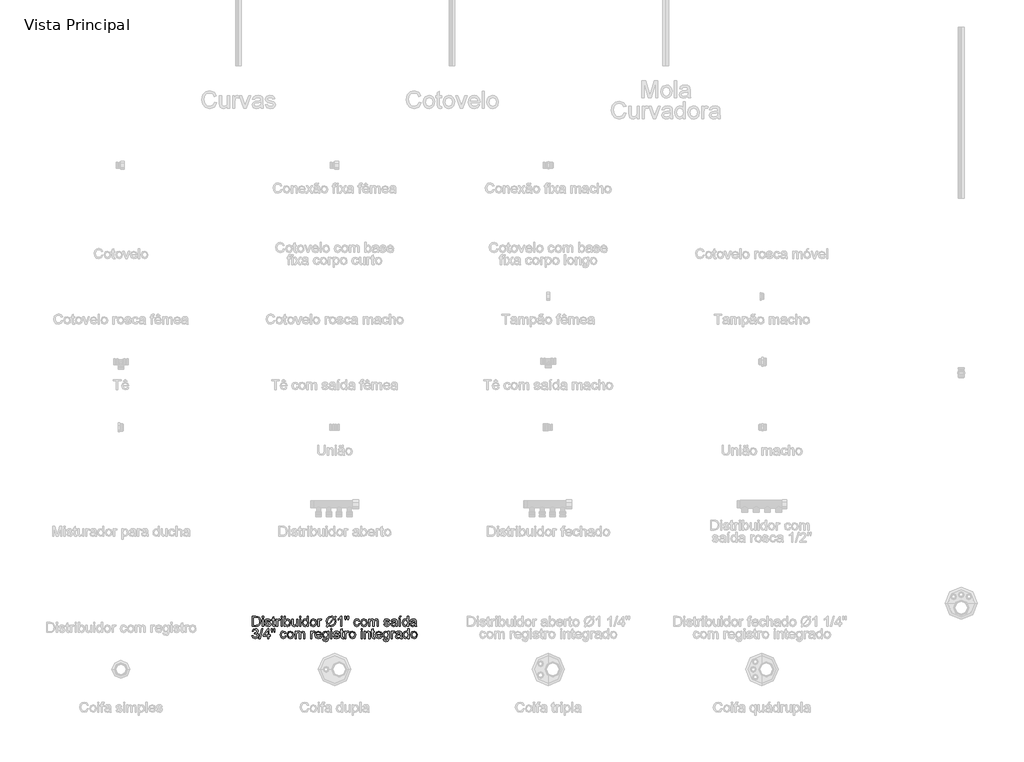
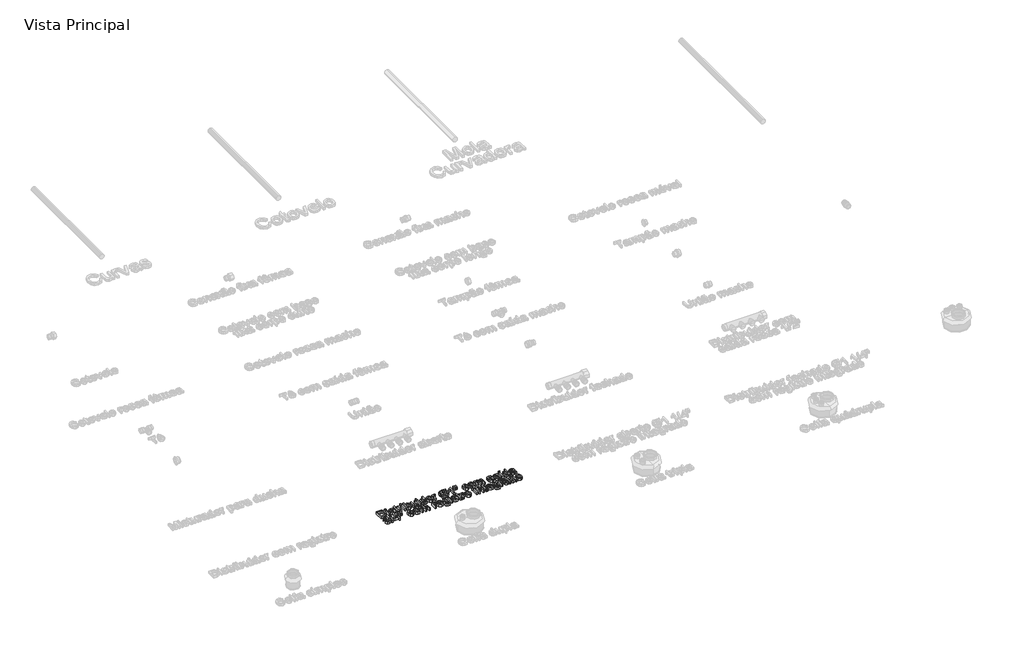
# One storey, part 3 of 12: 1 proxy.
"""IFC4 building model written with IfcOpenShell, lengths in millimetres."""

from ifc_helpers import new_model, si_unit, origin, origin_with_axes, place, context, project, spatial, polyline, outline, extrude, element, save

model = new_model("IFC4")

# Units and contexts
model_context = context("Model", 3, world=origin())
ifc_project = project(units=[si_unit("LENGTHUNIT", "METRE", prefix="MILLI")], contexts=[model_context])

# Site, building, storey
site = spatial("IfcSite", under=ifc_project)
building = spatial("IfcBuilding", under=site)
storey = spatial("IfcBuildingStorey", under=building, Name="Vista Principal", Elevation=0.0)

# Proxy
placement = place(None, origin())
element("IfcBuildingElementProxy", 1, Name="Legenda", ObjectType="Legenda", at=placement, inside=storey, context=model_context, shape_type="SweptSolid", body=[
    extrude(outline(polyline([(-619.2824012, -1548.3212496), (-619.2824012, -1513.161541), (-607.1533319, -1513.161541), (-600.8784913, -1513.6679919), (-595.7109755, -1516.1830785), (-591.5477776, -1522.1918177), (-590.1657676, -1530.5525492), (-591.1014141, -1537.6471535), (-593.5049098, -1542.7674577), (-596.7152934, -1545.9563815), (-600.9171189, -1547.7203756), (-606.5696258, -1548.3212496), (-619.2824012, -1548.3212496)]), holes=[polyline([(-614.8874377, -1543.926286), (-607.1104123, -1543.926286), (-601.4536135, -1543.2910764), (-598.1917265, -1541.4970385), (-595.5178375, -1537.1321187), (-594.5607312, -1530.4838779), (-596.4363162, -1522.1574821), (-600.9986661, -1518.2603855), (-607.2305871, -1517.5565046), (-614.8874377, -1517.5565046), (-614.8874377, -1543.926286)])]), origin_with_axes(), (0.0, 0.0, 1.0), 10.0),
    extrude(outline(polyline([(-584.6720631, -1548.3212496), (-584.6720631, -1522.5008386), (-580.2770996, -1522.5008386), (-580.2770996, -1548.3212496), (-584.6720631, -1548.3212496)])), origin_with_axes(), (0.0, 0.0, 1.0), 10.0),
    extrude(outline(polyline([(-584.6720631, -1517.5565046), (-584.6720631, -1513.161541), (-580.2770996, -1513.161541), (-580.2770996, -1517.5565046), (-584.6720631, -1517.5565046)])), origin_with_axes(), (0.0, 0.0, 1.0), 10.0),
    extrude(outline(polyline([(-575.3327655, -1540.6300633), (-570.937802, -1540.0806929), (-568.9034145, -1543.3425799), (-564.2423497, -1544.4756564), (-559.761547, -1543.4370029), (-558.3022817, -1540.9991716), (-559.7701309, -1539.0248715), (-564.2938531, -1537.7716202), (-570.9120502, -1535.6213499), (-573.800537, -1533.1105553), (-574.7833951, -1529.5653992), (-573.9936751, -1526.2906363), (-571.8391129, -1523.7884256), (-569.0450491, -1522.4879627), (-565.2638353, -1521.9514681), (-559.9160574, -1522.8141514), (-556.5168278, -1525.1489758), (-555.006059, -1529.0932839), (-559.4010226, -1529.6426544), (-561.0534259, -1527.2176989), (-564.9204788, -1526.3464317), (-569.1265963, -1527.1790713), (-570.3884315, -1529.1190357), (-568.2252854, -1531.3680209), (-564.4397797, -1532.3036675), (-557.9889689, -1534.3723906), (-554.9931832, -1536.7157989), (-553.9073181, -1540.5356403), (-555.1820293, -1544.7417577), (-558.8602361, -1547.7933389), (-564.3024371, -1548.87062), (-571.9678716, -1546.793313), (-575.3327655, -1540.6300633)])), origin_with_axes(), (0.0, 0.0, 1.0), 10.0),
    extrude(outline(polyline([(-539.6236865, -1544.6559186), (-539.0743161, -1548.4500083), (-542.3619549, -1548.87062), (-546.0444536, -1548.1409874), (-547.8814111, -1546.2267747), (-548.4136137, -1541.2395212), (-548.4136137, -1526.8958022), (-551.7098364, -1526.8958022), (-551.7098364, -1522.5008386), (-548.4136137, -1522.5008386), (-548.4136137, -1516.225998), (-544.0186501, -1513.6422401), (-544.0186501, -1522.5008386), (-539.6236865, -1522.5008386), (-539.6236865, -1526.8958022), (-544.0186501, -1526.8958022), (-544.0186501, -1541.1107625), (-543.7868845, -1543.3769155), (-539.6236865, -1544.6559186)])), origin_with_axes(), (0.0, 0.0, 1.0), 10.0),
    extrude(outline(polyline([(-535.228723, -1548.3212496), (-535.228723, -1522.5008386), (-531.3831299, -1522.5008386), (-531.3831299, -1526.32068), (-528.6534455, -1522.8012756), (-525.9065932, -1521.9514681), (-521.4944618, -1523.3077264), (-522.962311, -1527.2477426), (-526.0525197, -1526.3464317), (-528.5375626, -1527.2134069), (-530.1212946, -1529.6169027), (-530.8337594, -1534.7500828), (-530.8337594, -1548.3212496), (-535.228723, -1548.3212496)])), origin_with_axes(), (0.0, 0.0, 1.0), 10.0),
    extrude(outline(polyline([(-518.7476096, -1548.3212496), (-518.7476096, -1522.5008386), (-514.352646, -1522.5008386), (-514.352646, -1548.3212496), (-518.7476096, -1548.3212496)])), origin_with_axes(), (0.0, 0.0, 1.0), 10.0),
    extrude(outline(polyline([(-518.7476096, -1517.5565046), (-518.7476096, -1513.161541), (-514.352646, -1513.161541), (-514.352646, -1517.5565046), (-518.7476096, -1517.5565046)])), origin_with_axes(), (0.0, 0.0, 1.0), 10.0),
    extrude(outline(polyline([(-503.3652371, -1548.3212496), (-507.7602007, -1548.3212496), (-507.7602007, -1513.161541), (-503.3652371, -1513.161541), (-503.3652371, -1526.2005052), (-496.4637709, -1521.9514681), (-492.0602234, -1522.9085745), (-488.6438259, -1525.5996313), (-486.5450591, -1529.784289), (-485.7853828, -1535.024768), (-488.931387, -1545.2567925), (-496.4895226, -1548.87062), (-503.3652371, -1544.2095551), (-503.3652371, -1548.3212496)]), holes=[polyline([(-503.3652371, -1535.2307819), (-502.1634893, -1541.3768638), (-496.8672148, -1544.4756564), (-492.1632303, -1542.1923355), (-490.1803464, -1535.3852923), (-492.0816832, -1528.5524974), (-496.6783687, -1526.3464317), (-501.3823531, -1528.6297526), (-503.3652371, -1535.2307819)])]), origin_with_axes(), (0.0, 0.0, 1.0), 10.0),
    extrude(outline(polyline([(-464.3599354, -1548.3212496), (-464.3599354, -1543.8833664), (-472.2914712, -1548.87062), (-476.4246255, -1547.9950609), (-479.2744846, -1545.7975791), (-480.5835314, -1542.5614438), (-480.8410488, -1538.4755011), (-480.8410488, -1522.5008386), (-476.4460852, -1522.5008386), (-476.4460852, -1536.406778), (-476.1799839, -1540.8875807), (-474.4417415, -1543.5185501), (-471.1669786, -1544.4756564), (-467.4973557, -1543.4970903), (-465.0724002, -1540.8317853), (-464.3599354, -1535.9346628), (-464.3599354, -1522.5008386), (-459.9649719, -1522.5008386), (-459.9649719, -1548.3212496), (-464.3599354, -1548.3212496)])), origin_with_axes(), (0.0, 0.0, 1.0), 10.0),
    extrude(outline(polyline([(-453.921897, -1517.5565046), (-453.921897, -1513.161541), (-449.5269334, -1513.161541), (-449.5269334, -1517.5565046), (-453.921897, -1517.5565046)])), origin_with_axes(), (0.0, 0.0, 1.0), 10.0),
    extrude(outline(polyline([(-453.921897, -1548.3212496), (-453.921897, -1522.5008386), (-449.5269334, -1522.5008386), (-449.5269334, -1548.3212496), (-453.921897, -1548.3212496)])), origin_with_axes(), (0.0, 0.0, 1.0), 10.0),
    extrude(outline(polyline([(-427.0027451, -1548.3212496), (-427.0027451, -1544.1752195), (-433.9299631, -1548.87062), (-439.372164, -1547.1710052), (-443.2177572, -1542.4283931), (-444.5825994, -1535.4367958), (-443.3250561, -1528.4409065), (-439.5567182, -1523.6253312), (-433.9471309, -1521.9514681), (-429.8955238, -1523.148924), (-427.0027451, -1526.2605926), (-427.0027451, -1513.161541), (-422.6077815, -1513.161541), (-422.6077815, -1548.3212496), (-427.0027451, -1548.3212496)]), holes=[polyline([(-440.1876358, -1535.419628), (-438.2047518, -1542.2223792), (-433.5265191, -1544.4756564), (-428.9040819, -1542.3253862), (-427.0027451, -1535.7544006), (-428.9384175, -1528.6211687), (-433.7067813, -1526.3464317), (-438.3335105, -1528.5310376), (-440.1876358, -1535.419628)])]), origin_with_axes(), (0.0, 0.0, 1.0), 10.0),
    extrude(outline(polyline([(-417.1140771, -1535.4110441), (-413.3114035, -1524.8099112), (-405.5687138, -1521.9514681), (-397.2637777, -1525.432245), (-394.0405183, -1535.0505197), (-395.4654479, -1542.8704647), (-399.61577, -1547.2954719), (-405.5687138, -1548.87062), (-413.9251533, -1545.4027191), (-417.1140771, -1535.4110441)]), holes=[polyline([(-412.7191135, -1535.4024602), (-410.6847261, -1542.2137953), (-405.5687138, -1544.4756564), (-400.4698693, -1542.2009194), (-398.4354819, -1535.2651176), (-400.4827452, -1528.6082928), (-405.5687138, -1526.3464317), (-410.6847261, -1528.5997089), (-412.7191135, -1535.4024602)])]), origin_with_axes(), (0.0, 0.0, 1.0), 10.0),
    extrude(outline(polyline([(-389.0961843, -1548.3212496), (-389.0961843, -1522.5008386), (-385.2505912, -1522.5008386), (-385.2505912, -1526.32068), (-382.5209068, -1522.8012756), (-379.7740545, -1521.9514681), (-375.3619232, -1523.3077264), (-376.8297723, -1527.2477426), (-379.9199811, -1526.3464317), (-382.405024, -1527.2134069), (-383.9887559, -1529.6169027), (-384.7012207, -1534.7500828), (-384.7012207, -1548.3212496), (-389.0961843, -1548.3212496)])), origin_with_axes(), (0.0, 0.0, 1.0), 10.0),
    extrude(outline(polyline([(-332.4852766, -1516.3805085), (-328.6654352, -1512.8782719), (-325.4979713, -1514.8869076), (-329.4465713, -1519.393462), (-327.2319217, -1524.6210652), (-326.4679534, -1531.2049266), (-328.5624283, -1540.565684), (-334.4424088, -1546.7718532), (-342.4941194, -1548.87062), (-348.2453413, -1548.1667391), (-352.8720705, -1546.0808482), (-356.8120867, -1550.5788187), (-359.9795507, -1547.7203756), (-355.9193597, -1543.0936464), (-359.1640789, -1536.9819002), (-359.9795507, -1530.8873218), (-357.8378643, -1521.2218355), (-351.8291251, -1514.7967765), (-343.2237521, -1512.6121706), (-337.6399165, -1513.4533941), (-332.4852766, -1516.3805085)]), holes=[polyline([(-335.3608875, -1519.6509794), (-339.0390944, -1517.6337598), (-343.1207451, -1517.0071341), (-352.0565988, -1520.4535753), (-355.5845871, -1530.7413953), (-355.0438006, -1535.5226349), (-352.9579096, -1539.7287524), (-335.3608875, -1519.6509794)]), polyline([(-332.450941, -1522.8098595), (-349.9878757, -1542.8103773), (-347.7903939, -1543.7116882), (-343.2495038, -1544.4756564), (-334.3651536, -1540.9047485), (-330.862917, -1530.8787379), (-332.450941, -1522.8098595)])]), origin_with_axes(), (0.0, 0.0, 1.0), 10.0),
    extrude(outline(polyline([(-305.5918765, -1548.3212496), (-309.9868401, -1548.3212496), (-309.9868401, -1520.9213986), (-314.150038, -1523.8871406), (-318.7767672, -1526.1060821), (-318.7767672, -1521.9514681), (-312.3345403, -1517.8397737), (-308.4245679, -1513.161541), (-305.5918765, -1513.161541), (-305.5918765, -1548.3212496)])), origin_with_axes(), (0.0, 0.0, 1.0), 10.0),
    extrude(outline(polyline([(-294.0808489, -1525.7970613), (-295.153838, -1519.0071859), (-295.153838, -1513.161541), (-290.7588744, -1513.161541), (-290.7588744, -1519.0071859), (-291.7202727, -1525.7970613), (-294.0808489, -1525.7970613)])), origin_with_axes(), (0.0, 0.0, 1.0), 10.0),
    extrude(outline(polyline([(-285.3166735, -1525.7970613), (-286.3639109, -1519.0071859), (-286.3639109, -1513.161541), (-281.9689473, -1513.161541), (-281.9689473, -1519.0071859), (-282.9990169, -1525.7970613), (-285.3166735, -1525.7970613)])), origin_with_axes(), (0.0, 0.0, 1.0), 10.0),
    extrude(outline(polyline([(-246.2598683, -1538.981952), (-241.8649047, -1539.5313224), (-245.3928931, -1546.394161), (-252.3630306, -1548.87062), (-260.6937184, -1545.4155949), (-263.8397226, -1535.5054671), (-262.4963402, -1528.2048489), (-258.4018136, -1523.5137404), (-252.423118, -1521.9514681), (-245.7405416, -1524.0974464), (-242.4142752, -1530.1920248), (-246.8092388, -1530.7413953), (-248.8479181, -1527.4494646), (-252.3887824, -1526.3464317), (-257.4833348, -1528.5181618), (-259.444759, -1535.3852923), (-257.5262544, -1542.3168023), (-252.5089571, -1544.4756564), (-248.367219, -1543.1279821), (-246.2598683, -1538.981952)])), origin_with_axes(), (0.0, 0.0, 1.0), 10.0),
    extrude(outline(polyline([(-239.1180525, -1535.4110441), (-235.315379, -1524.8099112), (-227.5726892, -1521.9514681), (-219.2677532, -1525.432245), (-216.0444938, -1535.0505197), (-217.4694234, -1542.8704647), (-221.6197454, -1547.2954719), (-227.5726892, -1548.87062), (-235.9291288, -1545.4027191), (-239.1180525, -1535.4110441)]), holes=[polyline([(-234.7230889, -1535.4024602), (-232.6887015, -1542.2137953), (-227.5726892, -1544.4756564), (-222.4738448, -1542.2009194), (-220.4394573, -1535.2651176), (-222.4867206, -1528.6082928), (-227.5726892, -1526.3464317), (-232.6887015, -1528.5997089), (-234.7230889, -1535.4024602)])]), origin_with_axes(), (0.0, 0.0, 1.0), 10.0),
    extrude(outline(polyline([(-211.1001598, -1548.3212496), (-211.1001598, -1522.5008386), (-206.7051962, -1522.5008386), (-206.7051962, -1526.7498756), (-203.6836587, -1523.2690988), (-199.3831182, -1521.9514681), (-194.9795707, -1523.2948506), (-192.5589072, -1527.0588965), (-184.7990497, -1521.9514681), (-179.0521198, -1524.0759867), (-177.0391921, -1530.6212205), (-177.0391921, -1548.3212496), (-181.4341557, -1548.3212496), (-181.4341557, -1532.5096814), (-181.8418915, -1528.8400585), (-183.3183246, -1527.0331448), (-185.8291192, -1526.3464317), (-190.1511195, -1528.1061339), (-191.8721941, -1533.7457649), (-191.8721941, -1548.3212496), (-196.2671577, -1548.3212496), (-196.2671577, -1532.0203984), (-197.2843514, -1527.7627774), (-200.6192017, -1526.3464317), (-203.8725048, -1527.2906622), (-206.035651, -1530.0546822), (-206.7051962, -1535.2994532), (-206.7051962, -1548.3212496), (-211.1001598, -1548.3212496)])), origin_with_axes(), (0.0, 0.0, 1.0), 10.0),
    extrude(outline(polyline([(-158.3605969, -1540.6300633), (-153.9656334, -1540.0806929), (-151.9312459, -1543.3425799), (-147.2701811, -1544.4756564), (-142.7893783, -1543.4370029), (-141.3301131, -1540.9991716), (-142.7979623, -1539.0248715), (-147.3216845, -1537.7716202), (-153.9398816, -1535.6213499), (-156.8283684, -1533.1105553), (-157.8112265, -1529.5653992), (-157.0215065, -1526.2906363), (-154.8669443, -1523.7884256), (-152.0728805, -1522.4879627), (-148.2916667, -1521.9514681), (-142.9438888, -1522.8141514), (-139.5446592, -1525.1489758), (-138.0338904, -1529.0932839), (-142.428854, -1529.6426544), (-144.0812573, -1527.2176989), (-147.9483102, -1526.3464317), (-152.1544277, -1527.1790713), (-153.4162629, -1529.1190357), (-151.2531168, -1531.3680209), (-147.4676111, -1532.3036675), (-141.0168003, -1534.3723906), (-138.0210146, -1536.7157989), (-136.9351495, -1540.5356403), (-138.2098606, -1544.7417577), (-141.8880675, -1547.7933389), (-147.3302684, -1548.87062), (-154.9957029, -1546.793313), (-158.3605969, -1540.6300633)])), origin_with_axes(), (0.0, 0.0, 1.0), 10.0),
    extrude(outline(polyline([(-115.5097021, -1545.0250269), (-119.771615, -1548.0036448), (-124.4798914, -1548.87062), (-130.8620309, -1546.7847291), (-133.0895564, -1541.454119), (-132.2483329, -1537.9776341), (-130.0379753, -1535.4539636), (-126.9606424, -1534.0118662), (-123.1579688, -1533.3509049), (-115.5354539, -1531.8401362), (-116.7200339, -1527.6168509), (-121.5785288, -1526.3464317), (-126.0249958, -1527.1919472), (-128.1452224, -1530.1920248), (-132.540186, -1529.6426544), (-130.6388492, -1525.3506978), (-126.8104239, -1522.8356112), (-121.0119905, -1521.9514681), (-115.6856724, -1522.7326042), (-112.6770108, -1524.6940284), (-111.3293364, -1527.6769383), (-111.1147386, -1531.5225314), (-111.1147386, -1536.9904841), (-110.8915568, -1544.6258749), (-110.0159977, -1548.3212496), (-114.4109612, -1548.3212496), (-115.5097021, -1545.0250269)]), holes=[polyline([(-115.522578, -1536.8574335), (-122.6000145, -1537.5827741), (-126.3812282, -1538.2952389), (-128.0937189, -1539.4540672), (-128.6945928, -1541.1450981), (-127.3855461, -1543.5228421), (-123.5442449, -1544.4756564), (-119.0977779, -1543.4241271), (-116.2307508, -1540.8789968), (-115.522578, -1536.8574335)])]), origin_with_axes(), (0.0, 0.0, 1.0), 10.0),
    extrude(outline(polyline([(-105.0716637, -1519.7539864), (-101.775441, -1513.161541), (-96.2817365, -1513.161541), (-101.775441, -1519.7539864), (-105.0716637, -1519.7539864)])), origin_with_axes(), (0.0, 0.0, 1.0), 10.0),
    extrude(outline(polyline([(-103.9729228, -1548.3212496), (-103.9729228, -1522.5008386), (-99.5779592, -1522.5008386), (-99.5779592, -1548.3212496), (-103.9729228, -1548.3212496)])), origin_with_axes(), (0.0, 0.0, 1.0), 10.0),
    extrude(outline(polyline([(-75.4056596, -1548.3212496), (-75.4056596, -1544.1752195), (-82.3328775, -1548.87062), (-87.7750785, -1547.1710052), (-91.6206716, -1542.4283931), (-92.9855138, -1535.4367958), (-91.7279706, -1528.4409065), (-87.9596327, -1523.6253312), (-82.3500454, -1521.9514681), (-78.2984383, -1523.148924), (-75.4056596, -1526.2605926), (-75.4056596, -1513.161541), (-71.010696, -1513.161541), (-71.010696, -1548.3212496), (-75.4056596, -1548.3212496)]), holes=[polyline([(-88.5905503, -1535.419628), (-86.6076663, -1542.2223792), (-81.9294336, -1544.4756564), (-77.3069963, -1542.3253862), (-75.4056596, -1535.7544006), (-77.341332, -1528.6211687), (-82.1096958, -1526.3464317), (-86.736425, -1528.5310376), (-88.5905503, -1535.419628)])]), origin_with_axes(), (0.0, 0.0, 1.0), 10.0),
    extrude(outline(polyline([(-47.9371373, -1545.0250269), (-52.1990502, -1548.0036448), (-56.9073266, -1548.87062), (-63.2894661, -1546.7847291), (-65.5169915, -1541.454119), (-64.675768, -1537.9776341), (-62.4654104, -1535.4539636), (-59.3880775, -1534.0118662), (-55.5854039, -1533.3509049), (-47.962889, -1531.8401362), (-49.147469, -1527.6168509), (-54.0059639, -1526.3464317), (-58.452431, -1527.1919472), (-60.5726575, -1530.1920248), (-64.9676211, -1529.6426544), (-63.0662843, -1525.3506978), (-59.237859, -1522.8356112), (-53.4394256, -1521.9514681), (-48.1131075, -1522.7326042), (-45.1044459, -1524.6940284), (-43.7567715, -1527.6769383), (-43.5421737, -1531.5225314), (-43.5421737, -1536.9904841), (-43.3189919, -1544.6258749), (-42.4434328, -1548.3212496), (-46.8383964, -1548.3212496), (-47.9371373, -1545.0250269)]), holes=[polyline([(-47.9500131, -1536.8574335), (-55.0274496, -1537.5827741), (-58.8086634, -1538.2952389), (-60.521154, -1539.4540672), (-61.122028, -1541.1450981), (-59.8129812, -1543.5228421), (-55.97168, -1544.4756564), (-51.525213, -1543.4241271), (-48.658186, -1540.8789968), (-47.9500131, -1536.8574335)])]), origin_with_axes(), (0.0, 0.0, 1.0), 10.0),
    extrude(outline(polyline([(-620.9305126, -1581.6731382), (-616.535549, -1581.1237678), (-614.1105935, -1585.750497), (-609.5739954, -1587.1668427), (-604.2348014, -1585.2182944), (-602.2519174, -1580.3941352), (-604.2176335, -1575.8489531), (-609.213471, -1574.0506233), (-612.2950959, -1574.5313224), (-611.8058128, -1570.1363589), (-606.1146784, -1568.9260271), (-603.9000287, -1565.0460983), (-605.5052205, -1561.6082411), (-609.6426667, -1560.2476908), (-613.8316163, -1561.6211169), (-615.9861786, -1565.7413953), (-620.3811421, -1565.1920248), (-616.7844825, -1558.2991425), (-609.7971771, -1555.8527273), (-604.4966107, -1557.0587671), (-600.7883602, -1560.3549897), (-599.5050652, -1564.7885809), (-600.7239809, -1568.840188), (-604.3292244, -1571.7501345), (-599.5394008, -1574.7545042), (-597.8569538, -1580.4713904), (-601.2218478, -1588.3342549), (-609.7285058, -1591.5618063), (-617.4368599, -1588.8063701), (-620.9305126, -1581.6731382)])), origin_with_axes(), (0.0, 0.0, 1.0), 10.0),
    extrude(outline(polyline([(-596.2088425, -1591.0124358), (-586.3201745, -1555.8527273), (-582.3544066, -1555.8527273), (-592.2430746, -1591.0124358), (-596.2088425, -1591.0124358)])), origin_with_axes(), (0.0, 0.0, 1.0), 10.0),
    extrude(outline(polyline([(-565.993468, -1591.0124358), (-565.993468, -1582.7718791), (-581.9252109, -1582.7718791), (-581.9252109, -1578.3769155), (-564.8947271, -1556.4020977), (-561.5985044, -1556.4020977), (-561.5985044, -1578.3769155), (-557.2035408, -1578.3769155), (-557.2035408, -1582.7718791), (-561.5985044, -1582.7718791), (-561.5985044, -1591.0124358), (-565.993468, -1591.0124358)]), holes=[polyline([(-565.993468, -1578.3769155), (-565.993468, -1564.7971648), (-576.5173456, -1578.3769155), (-565.993468, -1578.3769155)])]), origin_with_axes(), (0.0, 0.0, 1.0), 10.0),
    extrude(outline(polyline([(-552.2849585, -1568.4882475), (-553.3579477, -1561.6983722), (-553.3579477, -1555.8527273), (-548.9629841, -1555.8527273), (-548.9629841, -1561.6983722), (-549.9243824, -1568.4882475), (-552.2849585, -1568.4882475)])), origin_with_axes(), (0.0, 0.0, 1.0), 10.0),
    extrude(outline(polyline([(-543.5207831, -1568.4882475), (-544.5680206, -1561.6983722), (-544.5680206, -1555.8527273), (-540.173057, -1555.8527273), (-540.173057, -1561.6983722), (-541.2031266, -1568.4882475), (-543.5207831, -1568.4882475)])), origin_with_axes(), (0.0, 0.0, 1.0), 10.0),
    extrude(outline(polyline([(-504.463978, -1581.6731382), (-500.0690144, -1582.2225087), (-503.5970028, -1589.0853473), (-510.5671403, -1591.5618063), (-518.8978281, -1588.1067812), (-522.0438323, -1578.1966534), (-520.7004499, -1570.8960352), (-516.6059232, -1566.2049266), (-510.6272277, -1564.6426544), (-503.9446512, -1566.7886327), (-500.6183849, -1572.8832111), (-505.0133484, -1573.4325815), (-507.0520278, -1570.1406508), (-510.592892, -1569.037618), (-515.6874445, -1571.209348), (-517.6488687, -1578.0764786), (-515.7303641, -1585.0079885), (-510.7130668, -1587.1668427), (-506.5713287, -1585.8191683), (-504.463978, -1581.6731382)])), origin_with_axes(), (0.0, 0.0, 1.0), 10.0),
    extrude(outline(polyline([(-497.3221622, -1578.1022303), (-493.5194886, -1567.5010975), (-485.7767989, -1564.6426544), (-477.4718629, -1568.1234312), (-474.2486035, -1577.741706), (-475.6735331, -1585.5616509), (-479.8238551, -1589.9866582), (-485.7767989, -1591.5618063), (-494.1332384, -1588.0939053), (-497.3221622, -1578.1022303)]), holes=[polyline([(-492.9271986, -1578.0936464), (-490.8928112, -1584.9049815), (-485.7767989, -1587.1668427), (-480.6779545, -1584.8921057), (-478.643567, -1577.9563038), (-480.6908303, -1571.2994791), (-485.7767989, -1569.037618), (-490.8928112, -1571.2908952), (-492.9271986, -1578.0936464)])]), origin_with_axes(), (0.0, 0.0, 1.0), 10.0),
    extrude(outline(polyline([(-469.3042694, -1591.0124358), (-469.3042694, -1565.1920248), (-464.9093059, -1565.1920248), (-464.9093059, -1569.4410619), (-461.8877684, -1565.9602851), (-457.5872279, -1564.6426544), (-453.1836804, -1565.9860368), (-450.7630169, -1569.7500828), (-443.0031593, -1564.6426544), (-437.2562294, -1566.7671729), (-435.2433018, -1573.3124067), (-435.2433018, -1591.0124358), (-439.6382654, -1591.0124358), (-439.6382654, -1575.2008677), (-440.0460012, -1571.5312448), (-441.5224343, -1569.724331), (-444.0332289, -1569.037618), (-448.3552292, -1570.7973202), (-450.0763038, -1576.4369512), (-450.0763038, -1591.0124358), (-454.4712674, -1591.0124358), (-454.4712674, -1574.7115846), (-455.4884611, -1570.4539636), (-458.8233114, -1569.037618), (-462.0766145, -1569.9818484), (-464.2397606, -1572.7458685), (-464.9093059, -1577.9906394), (-464.9093059, -1591.0124358), (-469.3042694, -1591.0124358)])), origin_with_axes(), (0.0, 0.0, 1.0), 10.0),
    extrude(outline(polyline([(-414.9165953, -1591.0124358), (-414.9165953, -1565.1920248), (-411.0710022, -1565.1920248), (-411.0710022, -1569.0118662), (-408.3413177, -1565.4924618), (-405.5944655, -1564.6426544), (-401.1823341, -1565.9989127), (-402.6501833, -1569.9389288), (-405.740392, -1569.037618), (-408.2254349, -1569.9045932), (-409.8091669, -1572.3080889), (-410.5216317, -1577.441269), (-410.5216317, -1591.0124358), (-414.9165953, -1591.0124358)])), origin_with_axes(), (0.0, 0.0, 1.0), 10.0),
    extrude(outline(polyline([(-380.3577606, -1583.3212496), (-376.0486362, -1583.87062), (-380.0787835, -1589.5445866), (-387.5854156, -1591.5618063), (-396.7101153, -1588.0810294), (-400.0835932, -1578.3168282), (-396.6757797, -1568.2307301), (-387.8343491, -1564.6426544), (-379.2461439, -1568.2221462), (-375.9112936, -1578.2910764), (-395.6886297, -1579.4756564), (-393.1606672, -1585.1839587), (-387.4995764, -1587.1668427), (-383.190452, -1586.248364), (-380.3577606, -1583.3212496)]), holes=[polyline([(-395.6886297, -1575.0806929), (-380.3062572, -1575.0806929), (-382.0659594, -1571.0977571), (-387.8515169, -1569.037618), (-393.2636742, -1570.6814373), (-395.6886297, -1575.0806929)])]), origin_with_axes(), (0.0, 0.0, 1.0), 10.0),
    extrude(outline(polyline([(-372.6150709, -1593.2099176), (-368.2201074, -1593.759288), (-366.7951778, -1596.0769446), (-362.5289729, -1597.0555107), (-358.0310024, -1595.9481859), (-355.8850241, -1592.8408093), (-355.5845871, -1587.7162131), (-362.4517177, -1591.0124358), (-370.3617937, -1587.1754266), (-373.1644414, -1577.9734716), (-371.9068981, -1571.1621365), (-368.2673189, -1566.3422692), (-362.6663155, -1564.6426544), (-355.5845871, -1568.4882475), (-355.5845871, -1565.1920248), (-351.1896235, -1565.1920248), (-351.1896235, -1587.4844475), (-352.3913714, -1596.0211492), (-356.1983369, -1599.991209), (-362.614812, -1601.4504743), (-369.9240141, -1599.3946271), (-372.6150709, -1593.2099176)]), holes=[polyline([(-368.7694778, -1577.6730347), (-366.8938928, -1584.4757859), (-362.1856164, -1586.6174722), (-357.4859239, -1584.4886618), (-355.5845871, -1577.8017934), (-357.5417193, -1571.2479756), (-362.2542877, -1569.037618), (-366.868141, -1571.21364), (-368.7694778, -1577.6730347)])]), origin_with_axes(), (0.0, 0.0, 1.0), 10.0),
    extrude(outline(polyline([(-344.5971782, -1591.0124358), (-344.5971782, -1565.1920248), (-340.2022146, -1565.1920248), (-340.2022146, -1591.0124358), (-344.5971782, -1591.0124358)])), origin_with_axes(), (0.0, 0.0, 1.0), 10.0),
    extrude(outline(polyline([(-344.5971782, -1560.2476908), (-344.5971782, -1555.8527273), (-340.2022146, -1555.8527273), (-340.2022146, -1560.2476908), (-344.5971782, -1560.2476908)])), origin_with_axes(), (0.0, 0.0, 1.0), 10.0),
    extrude(outline(polyline([(-335.2578806, -1583.3212496), (-330.862917, -1582.7718791), (-328.8285296, -1586.0337661), (-324.1674647, -1587.1668427), (-319.686662, -1586.1281892), (-318.2273968, -1583.6903578), (-319.6952459, -1581.7160578), (-324.2189682, -1580.4628065), (-330.8371653, -1578.3125362), (-333.7256521, -1575.8017416), (-334.7085101, -1572.2565854), (-333.9187901, -1568.9818225), (-331.7642279, -1566.4796118), (-328.9701642, -1565.179149), (-325.1889504, -1564.6426544), (-319.8411724, -1565.5053377), (-316.4419428, -1567.8401621), (-314.9311741, -1571.7844702), (-319.3261376, -1572.3338406), (-320.9785409, -1569.9088852), (-324.8455938, -1569.037618), (-329.0517113, -1569.8702575), (-330.3135466, -1571.8102219), (-328.1504004, -1574.0592072), (-324.3648947, -1574.9948537), (-317.9140839, -1577.0635768), (-314.9182982, -1579.4069851), (-313.8324332, -1583.2268265), (-315.1071443, -1587.432944), (-318.7853511, -1590.4845251), (-324.2275521, -1591.5618063), (-331.8929866, -1589.4844993), (-335.2578806, -1583.3212496)])), origin_with_axes(), (0.0, 0.0, 1.0), 10.0),
    extrude(outline(polyline([(-299.5488016, -1587.3471049), (-298.9994311, -1591.1411945), (-302.2870699, -1591.5618063), (-305.9695687, -1590.8321736), (-307.8065261, -1588.917961), (-308.3387287, -1583.9307074), (-308.3387287, -1569.5869884), (-311.6349514, -1569.5869884), (-311.6349514, -1565.1920248), (-308.3387287, -1565.1920248), (-308.3387287, -1558.9171843), (-303.9437652, -1556.3334264), (-303.9437652, -1565.1920248), (-299.5488016, -1565.1920248), (-299.5488016, -1569.5869884), (-303.9437652, -1569.5869884), (-303.9437652, -1583.8019487), (-303.7119995, -1586.0681018), (-299.5488016, -1587.3471049)])), origin_with_axes(), (0.0, 0.0, 1.0), 10.0),
    extrude(outline(polyline([(-295.153838, -1591.0124358), (-295.153838, -1565.1920248), (-291.3082449, -1565.1920248), (-291.3082449, -1569.0118662), (-288.5785605, -1565.4924618), (-285.8317083, -1564.6426544), (-281.4195769, -1565.9989127), (-282.887426, -1569.9389288), (-285.9776348, -1569.037618), (-288.4626777, -1569.9045932), (-290.0464097, -1572.3080889), (-290.7588744, -1577.441269), (-290.7588744, -1591.0124358), (-295.153838, -1591.0124358)])), origin_with_axes(), (0.0, 0.0, 1.0), 10.0),
    extrude(outline(polyline([(-279.7714655, -1578.1022303), (-275.968792, -1567.5010975), (-268.2261022, -1564.6426544), (-259.9211662, -1568.1234312), (-256.6979068, -1577.741706), (-258.1228364, -1585.5616509), (-262.2731584, -1589.9866582), (-268.2261022, -1591.5618063), (-276.5825418, -1588.0939053), (-279.7714655, -1578.1022303)]), holes=[polyline([(-275.376502, -1578.0936464), (-273.3421145, -1584.9049815), (-268.2261022, -1587.1668427), (-263.1272578, -1584.8921057), (-261.0928704, -1577.9563038), (-263.1401337, -1571.2994791), (-268.2261022, -1569.037618), (-273.3421145, -1571.2908952), (-275.376502, -1578.0936464)])]), origin_with_axes(), (0.0, 0.0, 1.0), 10.0),
    extrude(outline(polyline([(-238.0193116, -1591.0124358), (-238.0193116, -1565.1920248), (-233.6243481, -1565.1920248), (-233.6243481, -1591.0124358), (-238.0193116, -1591.0124358)])), origin_with_axes(), (0.0, 0.0, 1.0), 10.0),
    extrude(outline(polyline([(-238.0193116, -1560.2476908), (-238.0193116, -1555.8527273), (-233.6243481, -1555.8527273), (-233.6243481, -1560.2476908), (-238.0193116, -1560.2476908)])), origin_with_axes(), (0.0, 0.0, 1.0), 10.0),
    extrude(outline(polyline([(-227.0319027, -1591.0124358), (-227.0319027, -1565.1920248), (-222.6369391, -1565.1920248), (-222.6369391, -1568.7972684), (-214.6882355, -1564.6426544), (-210.5379134, -1565.4795859), (-207.7052221, -1567.6770677), (-206.3875914, -1570.908911), (-206.1558257, -1575.1579481), (-206.1558257, -1591.0124358), (-210.5507893, -1591.0124358), (-210.5507893, -1575.7502381), (-211.0572402, -1571.8617254), (-212.8469861, -1569.8058782), (-215.8642316, -1569.037618), (-220.6325954, -1570.7629845), (-222.6369391, -1577.3125103), (-222.6369391, -1591.0124358), (-227.0319027, -1591.0124358)])), origin_with_axes(), (0.0, 0.0, 1.0), 10.0),
    extrude(outline(polyline([(-190.7734533, -1587.3471049), (-190.2240828, -1591.1411945), (-193.5117216, -1591.5618063), (-197.1942203, -1590.8321736), (-199.0311778, -1588.917961), (-199.5633804, -1583.9307074), (-199.5633804, -1569.5869884), (-202.8596031, -1569.5869884), (-202.8596031, -1565.1920248), (-199.5633804, -1565.1920248), (-199.5633804, -1558.9171843), (-195.1684168, -1556.3334264), (-195.1684168, -1565.1920248), (-190.7734533, -1565.1920248), (-190.7734533, -1569.5869884), (-195.1684168, -1569.5869884), (-195.1684168, -1583.8019487), (-194.9366512, -1586.0681018), (-190.7734533, -1587.3471049)])), origin_with_axes(), (0.0, 0.0, 1.0), 10.0),
    extrude(outline(polyline([(-168.3007684, -1583.3212496), (-163.991644, -1583.87062), (-168.0217913, -1589.5445866), (-175.5284234, -1591.5618063), (-184.6531231, -1588.0810294), (-188.026601, -1578.3168282), (-184.6187875, -1568.2307301), (-175.7773569, -1564.6426544), (-167.1891517, -1568.2221462), (-163.8543014, -1578.2910764), (-183.6316375, -1579.4756564), (-181.103675, -1585.1839587), (-175.4425842, -1587.1668427), (-171.1334598, -1586.248364), (-168.3007684, -1583.3212496)]), holes=[polyline([(-183.6316375, -1575.0806929), (-168.249265, -1575.0806929), (-170.0089672, -1571.0977571), (-175.7945247, -1569.037618), (-181.206682, -1570.6814373), (-183.6316375, -1575.0806929)])]), origin_with_axes(), (0.0, 0.0, 1.0), 10.0),
    extrude(outline(polyline([(-160.5580787, -1593.2099176), (-156.1631151, -1593.759288), (-154.7381856, -1596.0769446), (-150.4719807, -1597.0555107), (-145.9740102, -1595.9481859), (-143.8280318, -1592.8408093), (-143.5275949, -1587.7162131), (-150.3947255, -1591.0124358), (-158.3048015, -1587.1754266), (-161.1074492, -1577.9734716), (-159.8499059, -1571.1621365), (-156.2103267, -1566.3422692), (-150.6093233, -1564.6426544), (-143.5275949, -1568.4882475), (-143.5275949, -1565.1920248), (-139.1326313, -1565.1920248), (-139.1326313, -1587.4844475), (-140.3343792, -1596.0211492), (-144.1413447, -1599.991209), (-150.5578198, -1601.4504743), (-157.8670219, -1599.3946271), (-160.5580787, -1593.2099176)]), holes=[polyline([(-156.7124856, -1577.6730347), (-154.8369006, -1584.4757859), (-150.1286242, -1586.6174722), (-145.4289317, -1584.4886618), (-143.5275949, -1577.8017934), (-145.4847271, -1571.2479756), (-150.1972955, -1569.037618), (-154.8111488, -1571.21364), (-156.7124856, -1577.6730347)])]), origin_with_axes(), (0.0, 0.0, 1.0), 10.0),
    extrude(outline(polyline([(-132.540186, -1591.0124358), (-132.540186, -1565.1920248), (-128.6945928, -1565.1920248), (-128.6945928, -1569.0118662), (-125.9649084, -1565.4924618), (-123.2180562, -1564.6426544), (-118.8059248, -1565.9989127), (-120.273774, -1569.9389288), (-123.3639827, -1569.037618), (-125.8490256, -1569.9045932), (-127.4327576, -1572.3080889), (-128.1452224, -1577.441269), (-128.1452224, -1591.0124358), (-132.540186, -1591.0124358)])), origin_with_axes(), (0.0, 0.0, 1.0), 10.0),
    extrude(outline(polyline([(-99.5779592, -1587.7162131), (-103.8398721, -1590.694831), (-108.5481485, -1591.5618063), (-114.930288, -1589.4759153), (-117.1578135, -1584.1453052), (-116.31659, -1580.6688204), (-114.1062323, -1578.1451499), (-111.0288994, -1576.7030525), (-107.2262259, -1576.0420911), (-99.6037109, -1574.5313224), (-100.788291, -1570.3080371), (-105.6467858, -1569.037618), (-110.0932529, -1569.8831334), (-112.2134795, -1572.8832111), (-116.608443, -1572.3338406), (-114.7071062, -1568.041884), (-110.878681, -1565.5267975), (-105.0802476, -1564.6426544), (-99.7539294, -1565.4237905), (-96.7452678, -1567.3852147), (-95.3975935, -1570.3681245), (-95.1829956, -1574.2137176), (-95.1829956, -1579.6816704), (-94.9598139, -1587.3170612), (-94.0842547, -1591.0124358), (-98.4792183, -1591.0124358), (-99.5779592, -1587.7162131)]), holes=[polyline([(-99.5908351, -1579.5486197), (-106.6682715, -1580.2739604), (-110.4494853, -1580.9864252), (-112.161976, -1582.1452534), (-112.7628499, -1583.8362844), (-111.4538031, -1586.2140283), (-107.612502, -1587.1668427), (-103.1660349, -1586.1153133), (-100.2990079, -1583.570183), (-99.5908351, -1579.5486197)])]), origin_with_axes(), (0.0, 0.0, 1.0), 10.0),
    extrude(outline(polyline([(-73.2081778, -1591.0124358), (-73.2081778, -1586.8664057), (-80.1353958, -1591.5618063), (-85.5775967, -1589.8621914), (-89.4231899, -1585.1195794), (-90.7880321, -1578.1279821), (-89.5304888, -1571.1320928), (-85.7621509, -1566.3165175), (-80.1525636, -1564.6426544), (-76.1009565, -1565.8401103), (-73.2081778, -1568.9517788), (-73.2081778, -1555.8527273), (-68.8132142, -1555.8527273), (-68.8132142, -1591.0124358), (-73.2081778, -1591.0124358)]), holes=[polyline([(-86.3930685, -1578.1108142), (-84.4101845, -1584.9135655), (-79.7319518, -1587.1668427), (-75.1095146, -1585.0165724), (-73.2081778, -1578.4455868), (-75.1438502, -1571.312355), (-79.912214, -1569.037618), (-84.5389432, -1571.2222239), (-86.3930685, -1578.1108142)])]), origin_with_axes(), (0.0, 0.0, 1.0), 10.0),
    extrude(outline(polyline([(-63.3195098, -1578.1022303), (-59.5168362, -1567.5010975), (-51.7741465, -1564.6426544), (-43.4692104, -1568.1234312), (-40.245951, -1577.741706), (-41.6708806, -1585.5616509), (-45.8212027, -1589.9866582), (-51.7741465, -1591.5618063), (-60.130586, -1588.0939053), (-63.3195098, -1578.1022303)]), holes=[polyline([(-58.9245462, -1578.0936464), (-56.8901587, -1584.9049815), (-51.7741465, -1587.1668427), (-46.675302, -1584.8921057), (-44.6409146, -1577.9563038), (-46.6881779, -1571.2994791), (-51.7741465, -1569.037618), (-56.8901587, -1571.2908952), (-58.9245462, -1578.0936464)])]), origin_with_axes(), (0.0, 0.0, 1.0), 10.0),
])

save(model, "model.ifc")
